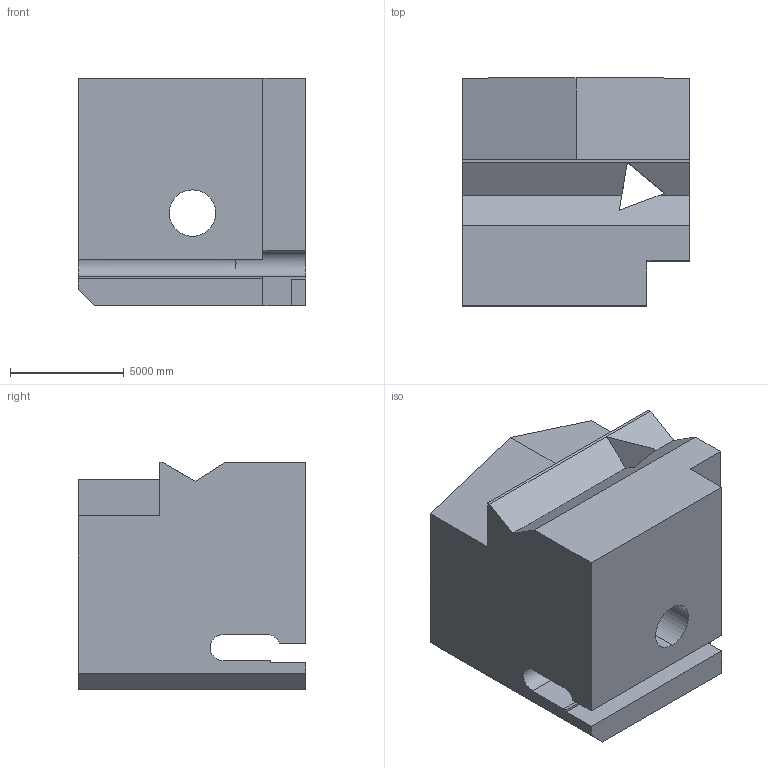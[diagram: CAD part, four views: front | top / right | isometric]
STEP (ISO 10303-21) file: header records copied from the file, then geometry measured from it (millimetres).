
FILE_DESCRIPTION (( 'STEP AP203' ), '1' );
FILE_NAME ('92.STEP', '2022-08-30T14:32:57', ( 'user' ), ( '' ), 'SwSTEP 2.0', 'SolidWorks 2021', '' );
FILE_SCHEMA (( 'CONFIG_CONTROL_DESIGN' ));
Length unit declared in the file: centimetre
Products named in the file (1): 92
Bounding box: 10000 x 10000 x 10000 mm (x, y, z)
Volume: 789308814213.3 mm3; surface area: 777449763.8 mm2
Topology: 1 solids, 1 shells, 38 faces, 109 edges, 72 vertices
Faces by surface type: plane 31, cylinder 7
Entity records: 1320 total; most frequent: CARTESIAN_POINT 226, ORIENTED_EDGE 218, DIRECTION 199, EDGE_CURVE 109, VECTOR 93, LINE 93, VERTEX_POINT 72, AXIS2_PLACEMENT_3D 53
